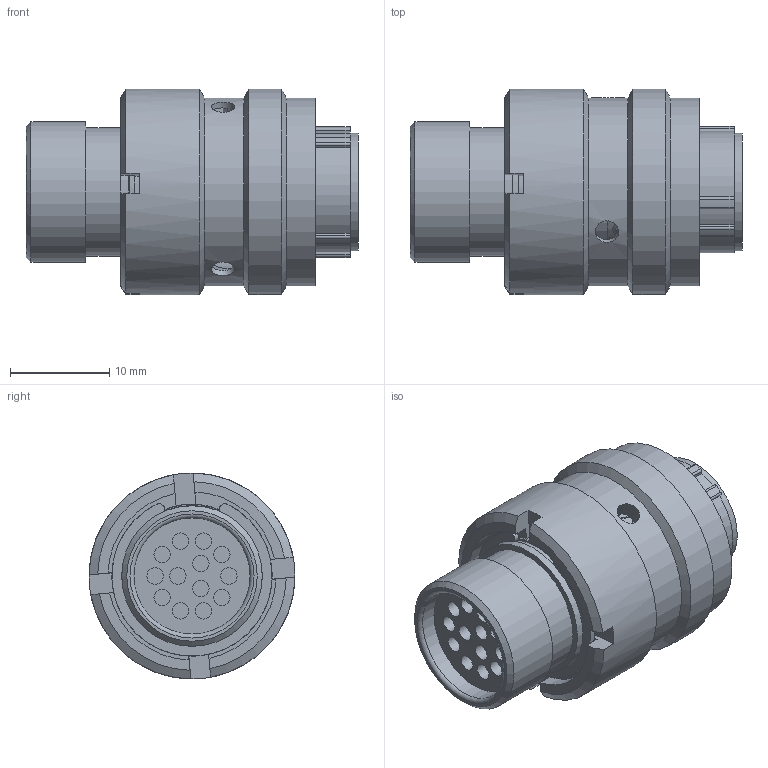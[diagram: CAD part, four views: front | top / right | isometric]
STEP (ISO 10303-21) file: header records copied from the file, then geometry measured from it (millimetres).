
FILE_DESCRIPTION(/* description */ ('STEP AP214'),/* implementation_level */ '2;1');
FILE_NAME(/* name */ 'AS610-35SA.step',/* time_stamp */ '',/* author */ (''),/* organization */ (''),/* preprocessor_version */ 'ST-DEVELOPER v20.1',/* originating_system */ 'Autodesk Translation Framework v15.8.0.0',/* authorisation */ '');
FILE_SCHEMA (('AUTOMOTIVE_DESIGN { 1 0 10303 214 3 1 1 }'));
Length unit declared in the file: millimetre
Products named in the file (1): 2026-08-11-00-19-19-655
Bounding box: 33.37 x 20.7 x 20.7 mm (x, y, z)
Volume: 5656.4 mm3; surface area: 7691.1 mm2
Topology: 1 solids, 2 shells, 534 faces, 1520 edges, 998 vertices
Faces by surface type: plane 243, cylinder 180, bspline 49, cone 35, torus 27
Full cylindrical faces by diameter (mm): 0.93 x13, 1.65 x13, 1.68 x13, 1.96 x13, 2.38 x3, 10.41 x1, 10.67 x1, 11.05 x1, 11.67 x1, 11.685 x1, 11.82 x1, 11.86 x1, 12 x1, 12.24 x1, 12.345 x1, 12.9 x1, 13.71 x1, 14 x1, 14.12 x1, 14.14 x2, 14.44 x1, 15.03 x1, 15.39 x1, 18.04 x1, 18.95 x2, 20.7 x2
Entity records: 23575 total; most frequent: CARTESIAN_POINT 9721, ORIENTED_EDGE 3040, DIRECTION 2506, EDGE_CURVE 1520, AXIS2_PLACEMENT_3D 1057, VERTEX_POINT 998, EDGE_LOOP 630, B_SPLINE_CURVE_WITH_KNOTS 556
